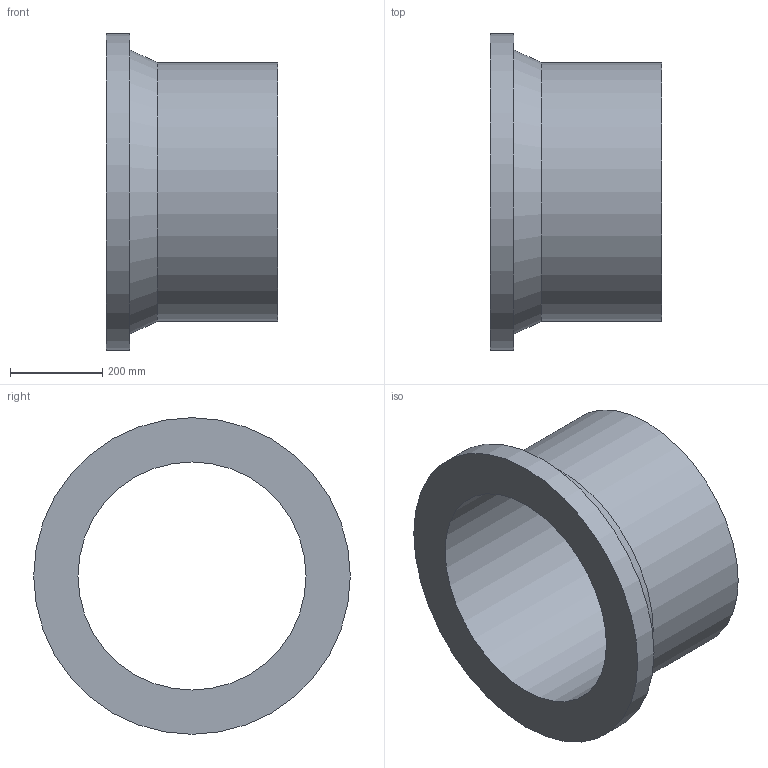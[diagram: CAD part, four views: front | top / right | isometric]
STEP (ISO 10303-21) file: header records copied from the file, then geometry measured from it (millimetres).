
FILE_DESCRIPTION(('Beschreibung'),'1');
FILE_NAME('V:/Ziel/25.80.01.063_SDR_17_PE100_560.STP', '2014-09-15T05:58:20',('Author'), ('Organization'), 'KCM Version 1.1.794.0', 'Kubotek KeyCreator', 'Authorization');
FILE_SCHEMA(('CONFIG_CONTROL_DESIGN'));
Length unit declared in the file: millimetre
Bounding box: 370 x 685 x 685 mm (x, y, z)
Volume: 27940221.4 mm3; surface area: 1564179.8 mm2
Topology: 1 solids, 1 shells, 7 faces, 18 edges, 21 vertices
Faces by surface type: cylinder 3, plane 3, cone 1
Full cylindrical faces by diameter (mm): 493.6 x1, 560 x1, 685 x1
Entity records: 286 total; most frequent: DIRECTION 41, CARTESIAN_POINT 33, ORIENTED_EDGE 22, AXIS2_PLACEMENT_3D 15, EDGE_CURVE 11, VECTOR 11, LINE 11, EDGE_LOOP 10
